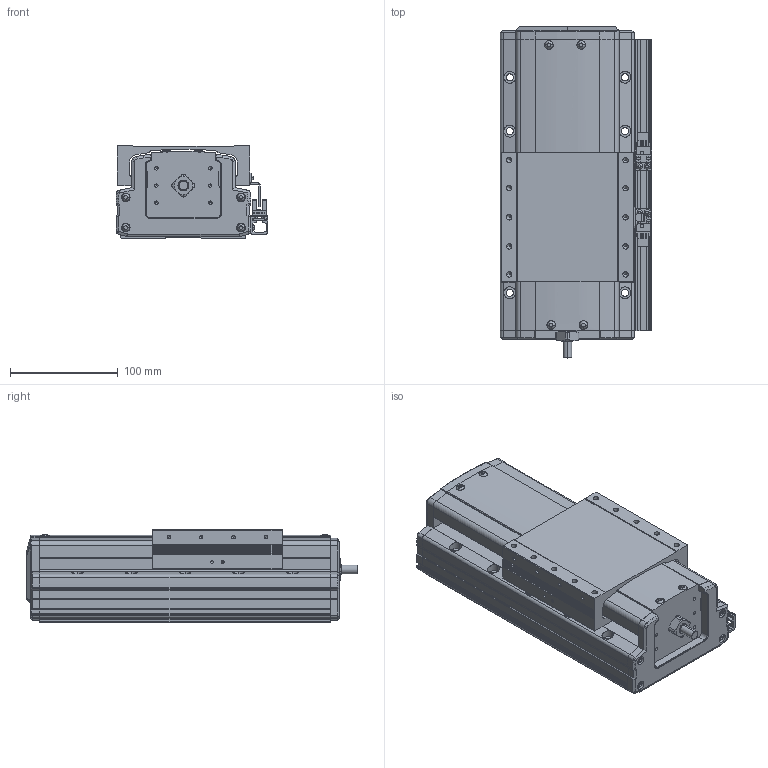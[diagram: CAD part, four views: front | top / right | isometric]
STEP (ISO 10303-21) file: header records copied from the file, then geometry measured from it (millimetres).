
FILE_DESCRIPTION(('STEP AP214'),'1');
FILE_NAME('Z:/Web/3D/PSA125/STP/PSA125-050 (3D)/PSA125ㅁㅁ-050+2SR.stp','2014-06-18T08:10:01',(' '),(' '),'Spatial InterOp 3D',' ',' ');
FILE_SCHEMA(('automotive_design'));
Length unit declared in the file: millimetre
Products named in the file (32): 스크루 : Round - M4.0 x 10.0; RRCV-PA120; SLIDE; BASE; FRCV-PA120-1(기준 뿔 제거); RR1500; 스크루 : Round - M4.0 x 6.0; 너트 : Square - M10.0 x 220.7419; EE-SX674; SBK-SX674-352; 스크루 : Round - M3.0 x 6.0; M3.0 x 6.0; SRL-16x17-380L; SGD-PA95; 스크루 : Round - M3.0 x 8.0
Bounding box: 141 x 308.1 x 86 mm (x, y, z)
Volume: 2579280.7 mm3; surface area: 299425.7 mm2
Topology: 32 solids, 32 shells, 2136 faces, 5725 edges, 3688 vertices
Faces by surface type: plane 1266, cylinder 582, cone 184, sphere 48, bspline 31, torus 25
Entity records: 86017 total; most frequent: CARTESIAN_POINT 14369, DIRECTION 11331, ORIENTED_EDGE 11262, EDGE_CURVE 5631, LINE 3901, VECTOR 3901, AXIS2_PLACEMENT_3D 3715, VERTEX_POINT 3688
